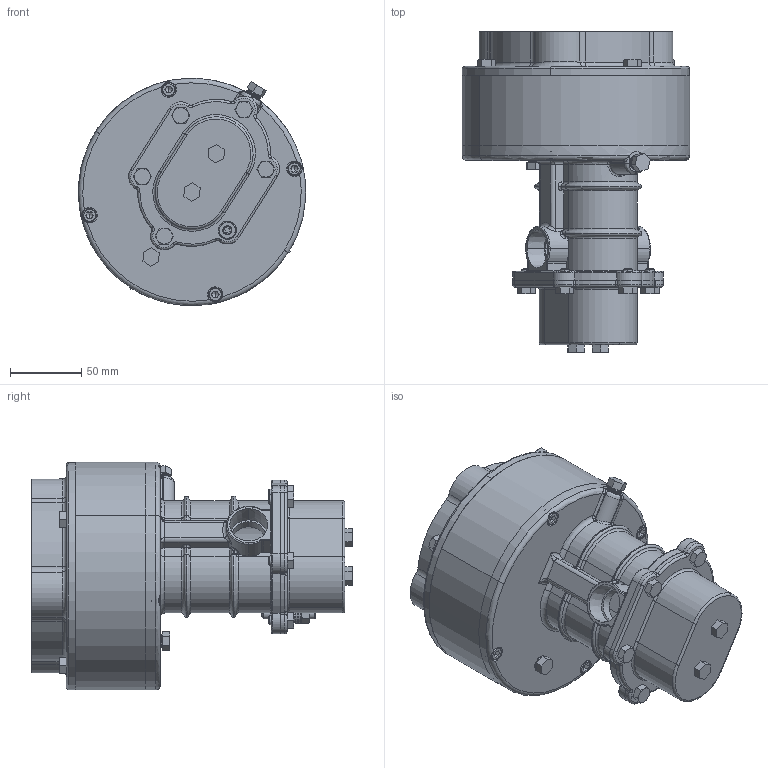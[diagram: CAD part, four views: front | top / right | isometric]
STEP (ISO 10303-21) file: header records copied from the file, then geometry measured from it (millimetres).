
FILE_DESCRIPTION (( 'STEP AP214' ), '1' );
FILE_NAME ('E25M FNPT IEC80 NO MTR.STEP', '2025-07-11T14:36:15', ( '' ), ( '' ), 'SwSTEP 2.0', 'SolidWorks 2024', '' );
FILE_SCHEMA (( 'AUTOMOTIVE_DESIGN' ));
Length unit declared in the file: millimetre
Products named in the file (1): E25M FNPT IEC80 NO MTR
Bounding box: 159.39 x 224.85 x 159.45 mm (x, y, z)
Volume: 752980.1 mm3; surface area: 277600.6 mm2
Topology: 28 solids, 28 shells, 1544 faces, 4137 edges, 2644 vertices
Faces by surface type: cylinder 517, plane 387, cone 296, torus 257, bspline 57, sphere 30
Entity records: 64663 total; most frequent: CARTESIAN_POINT 26400, ORIENTED_EDGE 8166, DIRECTION 7901, EDGE_CURVE 4083, AXIS2_PLACEMENT_3D 3258, VERTEX_POINT 2644, CIRCLE 1770, EDGE_LOOP 1677
